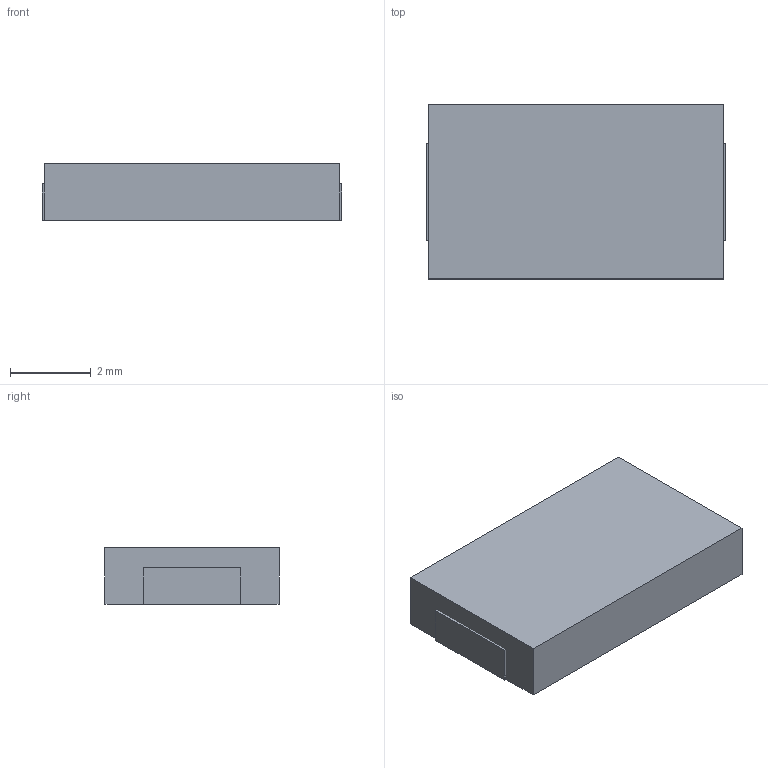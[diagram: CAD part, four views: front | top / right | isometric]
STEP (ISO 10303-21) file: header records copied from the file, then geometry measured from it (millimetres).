
FILE_DESCRIPTION((''),'2;1');
FILE_NAME('Y:\CADデータ\AutoCAD\貞安\7.3D\製品図\営業依頼分\1.SPC\ST1.5.stp','2013-09-27T13:47:20',('4024630'),(''),'Autodesk Inventor 2012','Autodesk Inventor 2012','');
FILE_SCHEMA(('AUTOMOTIVE_DESIGN { 1 0 10303 214 1 1 1 1 }'));
Length unit declared in the file: millimetre
Products named in the file (4): ST1.5; 端子1; 端子2
Assembly tree (3 placements, depth 2):
  ST1.5
    ST1.5
    端子1
    端子2
Bounding box: 7.4 x 4.3 x 1.4 mm (x, y, z)
Volume: 44.4 mm3; surface area: 117.5 mm2
Topology: 3 solids, 3 shells, 30 faces, 72 edges, 48 vertices
Faces by surface type: plane 30
Entity records: 975 total; most frequent: CARTESIAN_POINT 157, DIRECTION 146, ORIENTED_EDGE 144, VECTOR 72, LINE 72, EDGE_CURVE 72, VERTEX_POINT 48, AXIS2_PLACEMENT_3D 37
